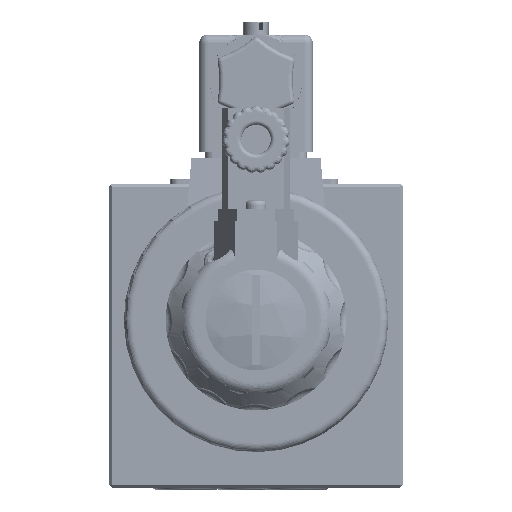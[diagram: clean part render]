
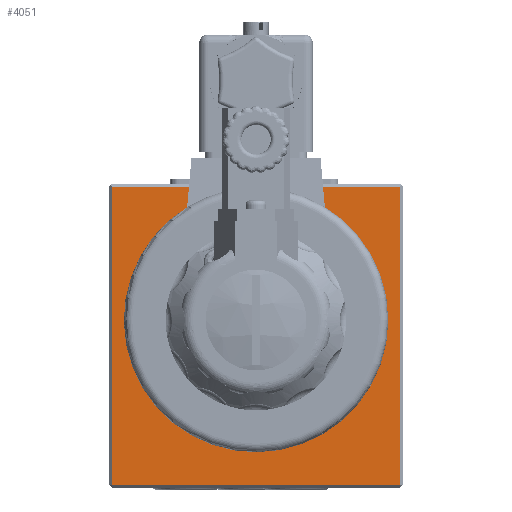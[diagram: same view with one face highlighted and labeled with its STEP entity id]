
A CAD part, left-side view. The second image highlights one B-rep face of the part: STEP entity #4051.
In plain terms, the highlighted planar face has unit normal (-1, 0, 0).
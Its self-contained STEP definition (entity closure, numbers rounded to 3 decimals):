
#4051=ADVANCED_FACE('',(#6527,#6528,#6529,#6530,#6531,#6532),#4976,.T.);
#4976=PLANE('',#25116);
#6014=CIRCLE('',#25111,3.25);
#6015=CIRCLE('',#25112,1.8);
#6016=CIRCLE('',#25113,1.8);
#6017=CIRCLE('',#25114,1.8);
#6018=CIRCLE('',#25115,16.);
#6527=FACE_BOUND('',#7714,.T.);
#6528=FACE_BOUND('',#7715,.T.);
#6529=FACE_BOUND('',#7716,.T.);
#6530=FACE_BOUND('',#7717,.T.);
#6531=FACE_BOUND('',#7718,.T.);
#6532=FACE_BOUND('',#7719,.T.);
#7714=EDGE_LOOP('',(#12145));
#7715=EDGE_LOOP('',(#12146,#12147,#12148,#12149));
#7716=EDGE_LOOP('',(#12150));
#7717=EDGE_LOOP('',(#12151));
#7718=EDGE_LOOP('',(#12152));
#7719=EDGE_LOOP('',(#12153));
#12145=ORIENTED_EDGE('',*,*,#18738,.T.);
#12146=ORIENTED_EDGE('',*,*,#18739,.T.);
#12147=ORIENTED_EDGE('',*,*,#18740,.T.);
#12148=ORIENTED_EDGE('',*,*,#18741,.T.);
#12149=ORIENTED_EDGE('',*,*,#18742,.T.);
#12150=ORIENTED_EDGE('',*,*,#18743,.T.);
#12151=ORIENTED_EDGE('',*,*,#18744,.T.);
#12152=ORIENTED_EDGE('',*,*,#18745,.T.);
#12153=ORIENTED_EDGE('',*,*,#18746,.T.);
#15964=VERTEX_POINT('',#81783);
#15965=VERTEX_POINT('',#81785);
#15966=VERTEX_POINT('',#81786);
#15967=VERTEX_POINT('',#81788);
#15968=VERTEX_POINT('',#81790);
#15969=VERTEX_POINT('',#81793);
#15970=VERTEX_POINT('',#81795);
#15971=VERTEX_POINT('',#81797);
#15972=VERTEX_POINT('',#81799);
#18738=EDGE_CURVE('',#15964,#15964,#6014,.T.);
#18739=EDGE_CURVE('',#15965,#15966,#20904,.T.);
#18740=EDGE_CURVE('',#15966,#15967,#20905,.T.);
#18741=EDGE_CURVE('',#15967,#15968,#20906,.T.);
#18742=EDGE_CURVE('',#15968,#15965,#20907,.T.);
#18743=EDGE_CURVE('',#15969,#15969,#6015,.T.);
#18744=EDGE_CURVE('',#15970,#15970,#6016,.T.);
#18745=EDGE_CURVE('',#15971,#15971,#6017,.T.);
#18746=EDGE_CURVE('',#15972,#15972,#6018,.T.);
#20904=LINE('',#81784,#22722);
#20905=LINE('',#81787,#22723);
#20906=LINE('',#81789,#22724);
#20907=LINE('',#81791,#22725);
#22722=VECTOR('',#29699,1.);
#22723=VECTOR('',#29700,1.);
#22724=VECTOR('',#29701,1.);
#22725=VECTOR('',#29702,1.);
#25111=AXIS2_PLACEMENT_3D('',#81782,#29697,#29698);
#25112=AXIS2_PLACEMENT_3D('',#81792,#29703,#29704);
#25113=AXIS2_PLACEMENT_3D('',#81794,#29705,#29706);
#25114=AXIS2_PLACEMENT_3D('',#81796,#29707,#29708);
#25115=AXIS2_PLACEMENT_3D('',#81798,#29709,#29710);
#25116=AXIS2_PLACEMENT_3D('',#81800,#29711,#29712);
#29697=DIRECTION('',(1.,0.,0.));
#29698=DIRECTION('',(0.,0.,-1.));
#29699=DIRECTION('',(0.,1.,0.));
#29700=DIRECTION('',(0.,0.,-1.));
#29701=DIRECTION('',(0.,-1.,0.));
#29702=DIRECTION('',(0.,0.,1.));
#29703=DIRECTION('',(1.,0.,0.));
#29704=DIRECTION('',(0.,0.,-1.));
#29705=DIRECTION('',(1.,0.,0.));
#29706=DIRECTION('',(0.,0.,-1.));
#29707=DIRECTION('',(1.,0.,0.));
#29708=DIRECTION('',(0.,0.,-1.));
#29709=DIRECTION('',(1.,0.,0.));
#29710=DIRECTION('',(0.,0.,1.));
#29711=DIRECTION('',(-1.,0.,0.));
#29712=DIRECTION('',(0.,0.,-1.));
#81782=CARTESIAN_POINT('',(94.,-22.996,-17.));
#81783=CARTESIAN_POINT('',(94.,-22.996,-20.25));
#81784=CARTESIAN_POINT('',(94.,0.,-0.7));
#81785=CARTESIAN_POINT('',(94.,-69.3,-0.7));
#81786=CARTESIAN_POINT('',(94.,-0.7,-0.7));
#81787=CARTESIAN_POINT('',(94.,-0.7,-72.5));
#81788=CARTESIAN_POINT('',(94.,-0.7,-71.8));
#81789=CARTESIAN_POINT('',(94.,-70.,-71.8));
#81790=CARTESIAN_POINT('',(94.,-69.3,-71.8));
#81791=CARTESIAN_POINT('',(94.,-69.3,-72.5));
#81792=CARTESIAN_POINT('',(94.,-16.,-32.5));
#81793=CARTESIAN_POINT('',(94.,-16.,-34.3));
#81794=CARTESIAN_POINT('',(94.,-54.,-32.5));
#81795=CARTESIAN_POINT('',(94.,-54.,-34.3));
#81796=CARTESIAN_POINT('',(94.,-35.,-51.5));
#81797=CARTESIAN_POINT('',(94.,-35.,-53.3));
#81798=CARTESIAN_POINT('',(94.,-35.,-32.5));
#81799=CARTESIAN_POINT('',(94.,-35.,-16.5));
#81800=CARTESIAN_POINT('',(94.,0.,-72.5));
